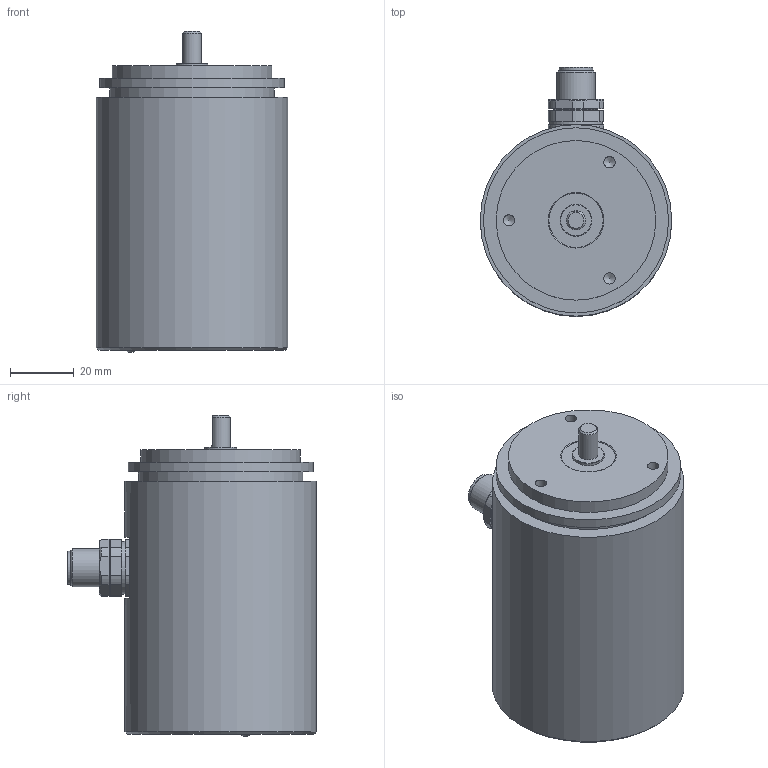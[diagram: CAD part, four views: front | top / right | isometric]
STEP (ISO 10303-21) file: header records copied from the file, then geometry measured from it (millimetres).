
FILE_DESCRIPTION(/* description */ ('Alibre Inc.'),/* implementation_level */ '2;1');
FILE_NAME(/* name */ 'export0',/* time_stamp */ '2016-10-21T14:18:15-04:00',/* author */ (''),/* organization */ (''),/* preprocessor_version */ 'ST-DEVELOPER v14',/* originating_system */ 'Alibre',/* authorisation */ '');
FILE_SCHEMA (('CONFIG_CONTROL_DESIGN'));
Length unit declared in the file: centimetre
Products named in the file (1): ID_1
Bounding box: 60 x 77.96 x 100.58 mm (x, y, z)
Volume: 160323.2 mm3; surface area: 41139.3 mm2
Topology: 3 solids, 43 shells, 279 faces, 476 edges, 314 vertices
Faces by surface type: plane 147, cylinder 101, cone 27, bspline 3, torus 1
Full cylindrical faces by diameter (mm): 1.4 x8, 2.87 x2, 3 x35, 3.545 x3, 6 x1, 8.3 x1, 9.9 x2, 10 x3, 10.5 x1, 11.8 x1, 12 x1, 13.5 x2, 14 x1, 15.2 x1, 16.5 x1, 17 x1, 20 x1, 26 x1, 46 x1, 50 x1, 51.5 x1, 55.8 x1, 58 x1, 60 x1
Entity records: 5843 total; most frequent: CARTESIAN_POINT 1081, DIRECTION 945, ORIENTED_EDGE 712, AXIS2_PLACEMENT_3D 478, FACE_BOUND 418, EDGE_LOOP 415, EDGE_CURVE 356, VERTEX_POINT 294
